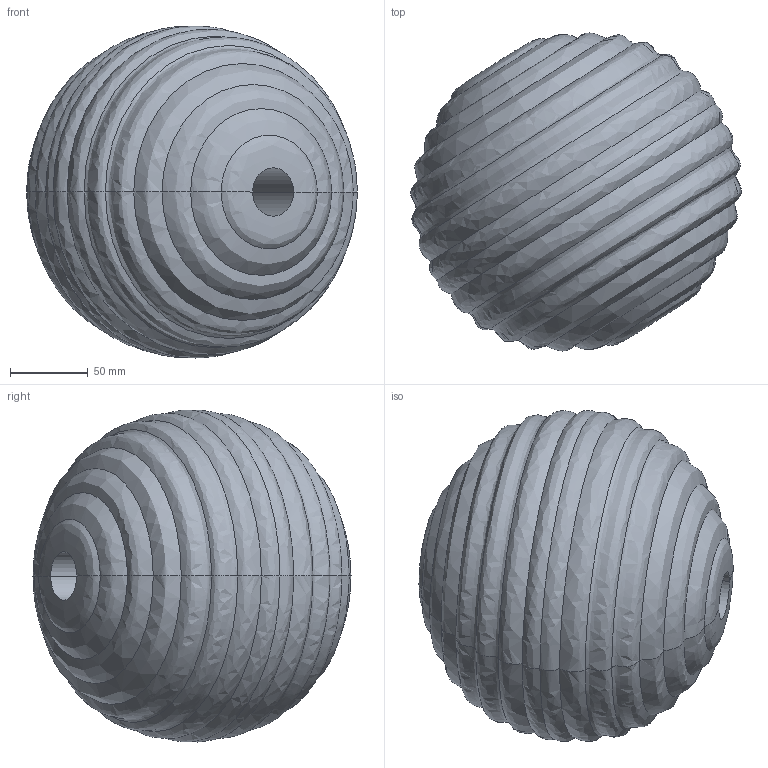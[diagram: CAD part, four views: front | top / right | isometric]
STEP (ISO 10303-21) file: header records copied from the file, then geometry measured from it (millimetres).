
FILE_DESCRIPTION (( 'STEP AP214' ), '1' );
FILE_NAME ('BOLA RIZADA20.STEP', '2026-02-11T16:50:51', ( '' ), ( '' ), 'SwSTEP 2.0', 'SolidWorks 2023', '' );
FILE_SCHEMA (( 'AUTOMOTIVE_DESIGN' ));
Length unit declared in the file: millimetre
Products named in the file (1): BOLA RIZADA20
Bounding box: 212.91 x 204.71 x 213.72 mm (x, y, z)
Volume: 4585422.8 mm3; surface area: 163979.5 mm2
Topology: 1 solids, 1 shells, 34 faces, 68 edges, 34 vertices
Faces by surface type: bspline 32, cylinder 2
Entity records: 1325 total; most frequent: CARTESIAN_POINT 773, ORIENTED_EDGE 136, DIRECTION 76, EDGE_CURVE 68, AXIS2_PLACEMENT_3D 37, ADVANCED_FACE 34, FACE_OUTER_BOUND 34, EDGE_LOOP 34
